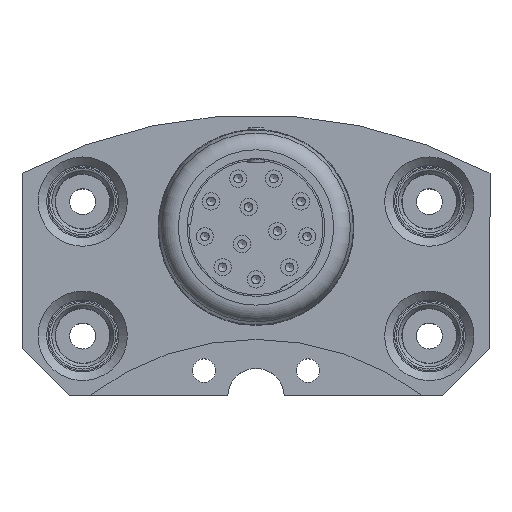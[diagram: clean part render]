
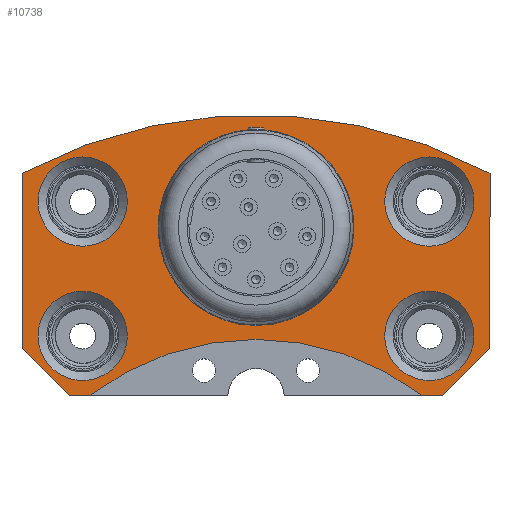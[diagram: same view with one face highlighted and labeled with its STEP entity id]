
A CAD part, top view. The second image highlights one B-rep face of the part: STEP entity #10738.
In plain terms, the highlighted planar face has unit normal (0, 0, 1).
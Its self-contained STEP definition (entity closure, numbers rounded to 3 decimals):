
#9958=CARTESIAN_POINT('',(0.0,33.2,9.9));
#9959=VERTEX_POINT('',#9958);
#9960=CARTESIAN_POINT('',(0.0,44.5,9.9));
#9961=DIRECTION('',(0.0,0.0,-1.0));
#9962=DIRECTION('',(0.0,-1.0,0.0));
#9963=AXIS2_PLACEMENT_3D('',#9960,#9961,#9962);
#9964=CIRCLE('',#9963,11.3);
#9965=EDGE_CURVE('',#9959,#9959,#9964,.T.);
#10140=CARTESIAN_POINT('',(-19.198,25.1,9.9));
#10141=VERTEX_POINT('',#10140);
#10148=CARTESIAN_POINT('',(-21.564,25.1,9.9));
#10149=VERTEX_POINT('',#10148);
#10150=CARTESIAN_POINT('',(-19.198,25.1,9.9));
#10151=DIRECTION('',(-1.0,0.0,0.0));
#10152=VECTOR('',#10151,2.367);
#10153=LINE('',#10150,#10152);
#10154=EDGE_CURVE('',#10141,#10149,#10153,.T.);
#10187=CARTESIAN_POINT('',(21.564,25.1,9.9));
#10188=VERTEX_POINT('',#10187);
#10195=CARTESIAN_POINT('',(19.198,25.1,9.9));
#10196=VERTEX_POINT('',#10195);
#10197=CARTESIAN_POINT('',(21.564,25.1,9.9));
#10198=DIRECTION('',(-1.0,0.0,0.0));
#10199=VECTOR('',#10198,2.367);
#10200=LINE('',#10197,#10199);
#10201=EDGE_CURVE('',#10188,#10196,#10200,.T.);
#10225=CARTESIAN_POINT('',(27.,30.536,9.9));
#10226=VERTEX_POINT('',#10225);
#10233=CARTESIAN_POINT('',(21.564,25.1,9.9));
#10234=DIRECTION('',(0.707,0.707,0.0));
#10235=VECTOR('',#10234,7.687);
#10236=LINE('',#10233,#10235);
#10237=EDGE_CURVE('',#10188,#10226,#10236,.T.);
#10250=CARTESIAN_POINT('',(-27.,30.536,9.9));
#10251=VERTEX_POINT('',#10250);
#10252=CARTESIAN_POINT('',(-27.,30.536,9.9));
#10253=DIRECTION('',(0.707,-0.707,0.0));
#10254=VECTOR('',#10253,7.687);
#10255=LINE('',#10252,#10254);
#10256=EDGE_CURVE('',#10251,#10149,#10255,.T.);
#10274=CARTESIAN_POINT('',(-27.,50.767,9.9));
#10275=VERTEX_POINT('',#10274);
#10276=CARTESIAN_POINT('',(-27.,30.536,9.9));
#10277=DIRECTION('',(0.0,1.0,0.0));
#10278=VECTOR('',#10277,20.231);
#10279=LINE('',#10276,#10278);
#10280=EDGE_CURVE('',#10251,#10275,#10279,.T.);
#10653=CARTESIAN_POINT('',(25.15,32.0,9.9));
#10654=VERTEX_POINT('',#10653);
#10655=CARTESIAN_POINT('',(20.,32.0,9.9));
#10656=DIRECTION('',(0.0,0.0,1.0));
#10657=DIRECTION('',(-1.0,0.0,0.0));
#10658=AXIS2_PLACEMENT_3D('',#10655,#10656,#10657);
#10659=CIRCLE('',#10658,5.15);
#10660=EDGE_CURVE('',#10654,#10654,#10659,.T.);
#10665=CARTESIAN_POINT('',(0.,39.509,9.9));
#10666=DIRECTION('',(0.0,0.0,1.0));
#10667=DIRECTION('',(1.0,0.0,0.0));
#10668=AXIS2_PLACEMENT_3D('',#10665,#10666,#10667);
#10669=PLANE('',#10668);
#10670=ORIENTED_EDGE('',*,*,#10237,.T.);
#10671=CARTESIAN_POINT('',(27.,50.767,9.9));
#10672=VERTEX_POINT('',#10671);
#10673=CARTESIAN_POINT('',(27.,50.767,9.9));
#10674=DIRECTION('',(0.0,-1.0,0.0));
#10675=VECTOR('',#10674,20.231);
#10676=LINE('',#10673,#10675);
#10677=EDGE_CURVE('',#10672,#10226,#10676,.T.);
#10678=ORIENTED_EDGE('',*,*,#10677,.F.);
#10679=CARTESIAN_POINT('',(0.0,0.0,9.9));
#10680=DIRECTION('',(0.0,0.0,-1.0));
#10681=DIRECTION('',(0.47,0.883,0.0));
#10682=AXIS2_PLACEMENT_3D('',#10679,#10680,#10681);
#10683=CIRCLE('',#10682,57.5);
#10684=EDGE_CURVE('',#10275,#10672,#10683,.T.);
#10685=ORIENTED_EDGE('',*,*,#10684,.F.);
#10686=ORIENTED_EDGE('',*,*,#10280,.F.);
#10687=ORIENTED_EDGE('',*,*,#10256,.T.);
#10688=ORIENTED_EDGE('',*,*,#10154,.F.);
#10689=CARTESIAN_POINT('',(0.0,0.0,9.9));
#10690=DIRECTION('',(0.0,0.0,-1.0));
#10691=DIRECTION('',(-1.0,0.0,0.0));
#10692=AXIS2_PLACEMENT_3D('',#10689,#10690,#10691);
#10693=CIRCLE('',#10692,31.6);
#10694=EDGE_CURVE('',#10141,#10196,#10693,.T.);
#10695=ORIENTED_EDGE('',*,*,#10694,.T.);
#10696=ORIENTED_EDGE('',*,*,#10201,.F.);
#10697=EDGE_LOOP('',(#10670,#10678,#10685,#10686,#10687,#10688,#10695,#10696));
#10698=FACE_OUTER_BOUND('',#10697,.T.);
#10699=ORIENTED_EDGE('',*,*,#9965,.T.);
#10700=EDGE_LOOP('',(#10699));
#10701=FACE_BOUND('',#10700,.T.);
#10702=CARTESIAN_POINT('',(25.15,47.5,9.9));
#10703=VERTEX_POINT('',#10702);
#10704=CARTESIAN_POINT('',(20.,47.5,9.9));
#10705=DIRECTION('',(0.0,0.0,1.0));
#10706=DIRECTION('',(-1.0,0.0,0.0));
#10707=AXIS2_PLACEMENT_3D('',#10704,#10705,#10706);
#10708=CIRCLE('',#10707,5.15);
#10709=EDGE_CURVE('',#10703,#10703,#10708,.T.);
#10710=ORIENTED_EDGE('',*,*,#10709,.F.);
#10711=EDGE_LOOP('',(#10710));
#10712=FACE_BOUND('',#10711,.T.);
#10713=CARTESIAN_POINT('',(-14.85,47.5,9.9));
#10714=VERTEX_POINT('',#10713);
#10715=CARTESIAN_POINT('',(-20.,47.5,9.9));
#10716=DIRECTION('',(0.0,0.0,1.0));
#10717=DIRECTION('',(-1.0,0.0,0.0));
#10718=AXIS2_PLACEMENT_3D('',#10715,#10716,#10717);
#10719=CIRCLE('',#10718,5.15);
#10720=EDGE_CURVE('',#10714,#10714,#10719,.T.);
#10721=ORIENTED_EDGE('',*,*,#10720,.F.);
#10722=EDGE_LOOP('',(#10721));
#10723=FACE_BOUND('',#10722,.T.);
#10724=CARTESIAN_POINT('',(-14.85,32.0,9.9));
#10725=VERTEX_POINT('',#10724);
#10726=CARTESIAN_POINT('',(-20.,32.0,9.9));
#10727=DIRECTION('',(0.0,0.0,1.0));
#10728=DIRECTION('',(-1.0,0.0,0.0));
#10729=AXIS2_PLACEMENT_3D('',#10726,#10727,#10728);
#10730=CIRCLE('',#10729,5.15);
#10731=EDGE_CURVE('',#10725,#10725,#10730,.T.);
#10732=ORIENTED_EDGE('',*,*,#10731,.F.);
#10733=EDGE_LOOP('',(#10732));
#10734=FACE_BOUND('',#10733,.T.);
#10735=ORIENTED_EDGE('',*,*,#10660,.F.);
#10736=EDGE_LOOP('',(#10735));
#10737=FACE_BOUND('',#10736,.T.);
#10738=ADVANCED_FACE('',(#10698,#10701,#10712,#10723,#10734,#10737),#10669,.T.);
